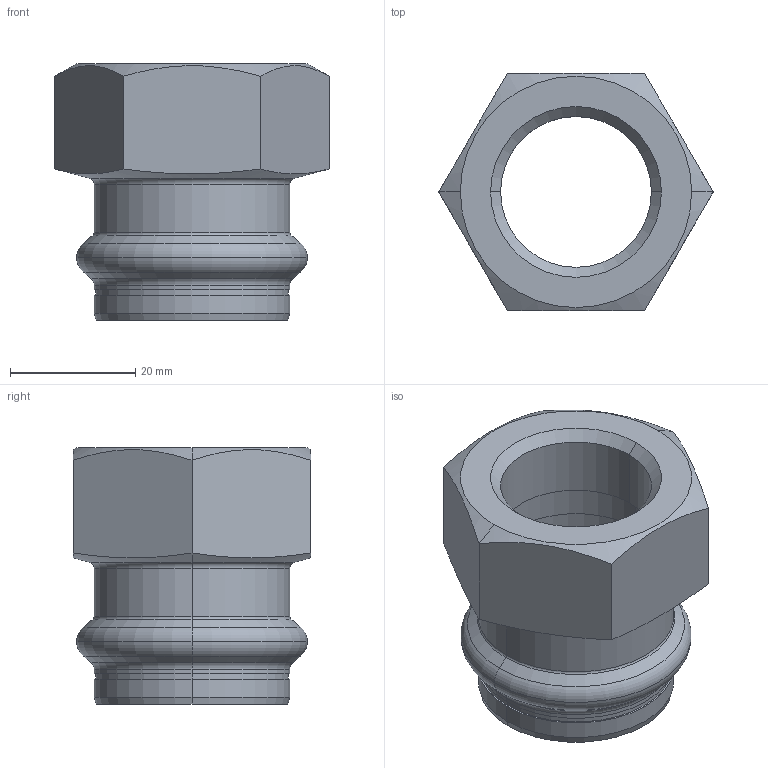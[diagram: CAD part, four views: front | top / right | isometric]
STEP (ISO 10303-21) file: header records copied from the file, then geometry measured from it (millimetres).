
FILE_DESCRIPTION(('CoCreate Modeling STEP Export'),'2;1');
FILE_NAME('8270GVW2834.stp','2013-03-05T11:12:43',(''),(''),'CoCreate Modeling STEP processor for AP214 (Solid Model)','CoCreate Modeling 17.00A 17-Jun-2010 (C) Parametric Technology GmbH','');
FILE_SCHEMA(('AUTOMOTIVE_DESIGN { 1 0 10303 214 1 1 1 1 }'));
Length unit declared in the file: millimetre
Products named in the file (2): 8270GVW2834
Assembly tree (1 placements, depth 2):
  8270GVW2834
    8270GVW2834
Bounding box: 43.88 x 38 x 41 mm (x, y, z)
Volume: 17959.2 mm3; surface area: 9887 mm2
Topology: 1 solids, 1 shells, 58 faces, 121 edges, 69 vertices
Faces by surface type: cone 18, cylinder 18, plane 12, torus 10
Entity records: 2148 total; most frequent: CARTESIAN_POINT 1025, ORIENTED_EDGE 242, DIRECTION 190, EDGE_CURVE 121, AXIS2_PLACEMENT_3D 74, VERTEX_POINT 69, EDGE_LOOP 64, FACE_OUTER_BOUND 58
